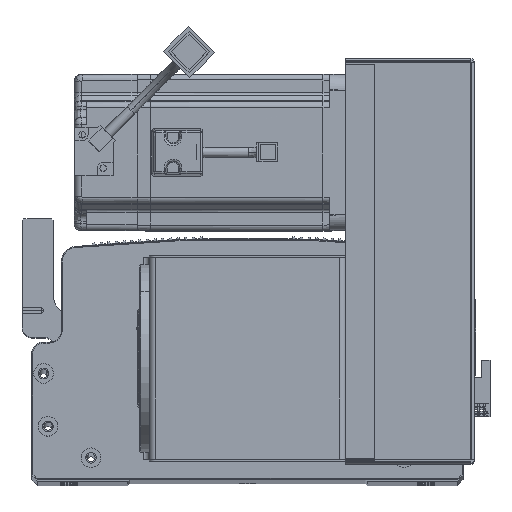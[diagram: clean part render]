
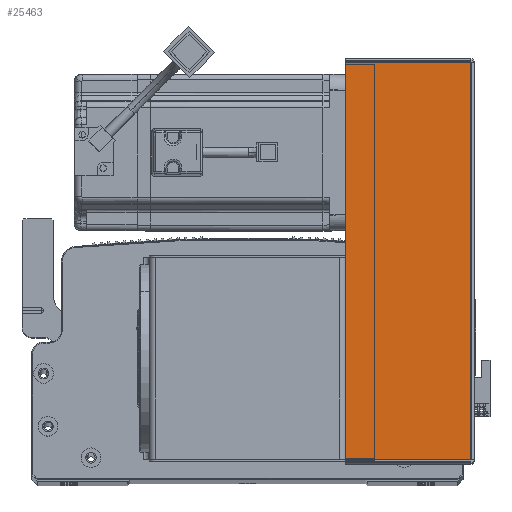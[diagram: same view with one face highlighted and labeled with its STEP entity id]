
A CAD part, top view. The second image highlights one B-rep face of the part: STEP entity #25463.
In plain terms, the highlighted planar face has unit normal (0, 0, 1) as drawn and (0, -1, 0) by its records, which use the part's own axes.
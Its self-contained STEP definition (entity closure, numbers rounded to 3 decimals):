
#4520 = EDGE_CURVE ( 'NONE', #59954, #62742, #59389, .T. ) ;
#5124 = ORIENTED_EDGE ( 'NONE', *, *, #4520, .F. ) ;
#6020 = DIRECTION ( 'NONE',  ( 1., 0., 0. ) ) ;
#8107 = CARTESIAN_POINT ( 'NONE',  ( 64.5, -1.5, -0.707 ) ) ;
#11428 = EDGE_CURVE ( 'NONE', #69518, #62742, #87154, .T. ) ;
#12031 = CARTESIAN_POINT ( 'NONE',  ( 64.5, -1.5, -203.293 ) ) ;
#15722 = VECTOR ( 'NONE', #46396, 1000. ) ;
#17656 = CARTESIAN_POINT ( 'NONE',  ( 0.737, -1.5, -0.707 ) ) ;
#18324 = EDGE_CURVE ( 'NONE', #86586, #69518, #55905, .T. ) ;
#20022 = LINE ( 'NONE', #79644, #66276 ) ;
#21526 = DIRECTION ( 'NONE',  ( 1., 0., 0. ) ) ;
#22294 = VECTOR ( 'NONE', #21526, 1000. ) ;
#25463 = ADVANCED_FACE ( 'NONE', ( #30519 ), #55958, .F. ) ;
#28943 = DIRECTION ( 'NONE',  ( 0., 1., 0. ) ) ;
#30097 = DIRECTION ( 'NONE',  ( -1., 0., 0. ) ) ;
#30519 = FACE_OUTER_BOUND ( 'NONE', #33728, .T. ) ;
#33728 = EDGE_LOOP ( 'NONE', ( #68179, #50879, #59216, #5124 ) ) ;
#38597 = DIRECTION ( 'NONE',  ( 0., 0., 1. ) ) ;
#43613 = EDGE_CURVE ( 'NONE', #86586, #59954, #20022, .T. ) ;
#46396 = DIRECTION ( 'NONE',  ( 0., 0., 1. ) ) ;
#47079 = CARTESIAN_POINT ( 'NONE',  ( 0., -1.5, -203.293 ) ) ;
#47127 = CARTESIAN_POINT ( 'NONE',  ( 0., -1.5, -0.707 ) ) ;
#50879 = ORIENTED_EDGE ( 'NONE', *, *, #18324, .T. ) ;
#55905 = LINE ( 'NONE', #47079, #22294 ) ;
#55958 = PLANE ( 'NONE',  #59687 ) ;
#56272 = VECTOR ( 'NONE', #6020, 1000. ) ;
#59216 = ORIENTED_EDGE ( 'NONE', *, *, #11428, .T. ) ;
#59389 = LINE ( 'NONE', #47127, #56272 ) ;
#59687 = AXIS2_PLACEMENT_3D ( 'NONE', #63532, #28943, #30097 ) ;
#59954 = VERTEX_POINT ( 'NONE', #17656 ) ;
#62742 = VERTEX_POINT ( 'NONE', #8107 ) ;
#63532 = CARTESIAN_POINT ( 'NONE',  ( 0., -1.5, 0. ) ) ;
#65477 = CARTESIAN_POINT ( 'NONE',  ( 64.5, -1.5, 0. ) ) ;
#66276 = VECTOR ( 'NONE', #38597, 1000. ) ;
#68179 = ORIENTED_EDGE ( 'NONE', *, *, #43613, .F. ) ;
#69518 = VERTEX_POINT ( 'NONE', #12031 ) ;
#75521 = CARTESIAN_POINT ( 'NONE',  ( 0.737, -1.5, -203.293 ) ) ;
#79644 = CARTESIAN_POINT ( 'NONE',  ( 0.737, -1.5, 0. ) ) ;
#86586 = VERTEX_POINT ( 'NONE', #75521 ) ;
#87154 = LINE ( 'NONE', #65477, #15722 ) ;
